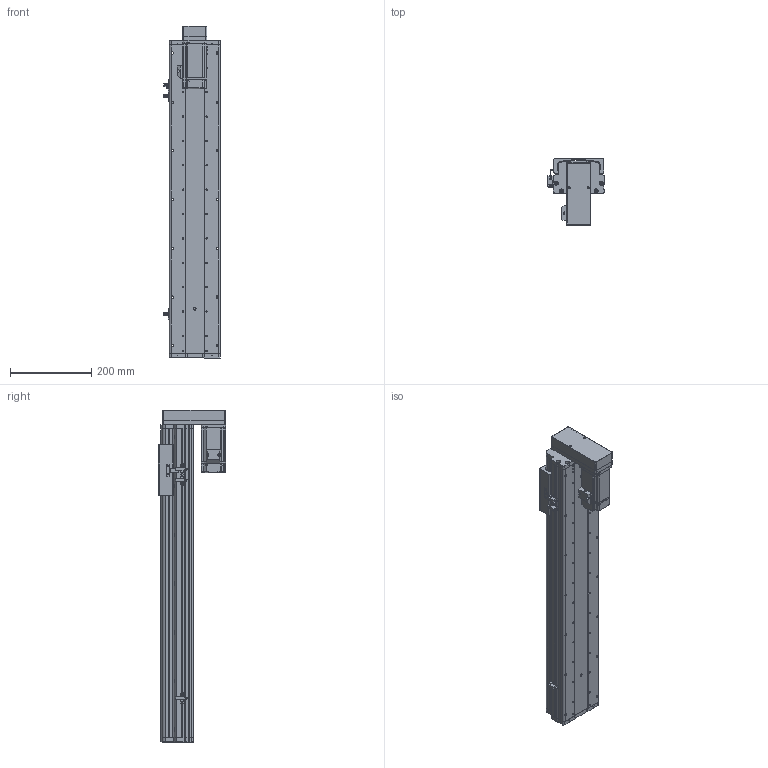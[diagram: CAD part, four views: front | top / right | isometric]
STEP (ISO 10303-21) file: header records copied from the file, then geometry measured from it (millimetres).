
FILE_DESCRIPTION (( 'STEP AP214' ), '1' );
FILE_NAME ('KSD125S-S550-MD-CM.STEP', '2017-10-21T08:07:10', ( '微软用户' ), ( '微软中国' ), 'SwSTEP 2.0', 'SolidWorks 2014', '' );
FILE_SCHEMA (( 'AUTOMOTIVE_DESIGN' ));
Length unit declared in the file: millimetre
Products named in the file (16): 拸萇儂釱滅袉菜; 拸萇儂釱滅袉菜-1; 覜茼え68遵圉猾敕; U倰嫖萇假蚾璃; U倰嫖萇EEㄜSX672; ヶ傷啣-125遵耀郪; KSD125-賑雄釱1; 125-帣傷啣1; KSD125S-S550-MD-CM; 125宽马达安装板连板上下折丝杆同步带; 125遵悵誘欶奻狟殏; HTPA30S3M150_A_H6_a佪裝蚚; HTPA30S3M150_A_H6_a萇儂蚚; KSD125S-550俴最佪裝滅鳥裔; KSD125S-550俴最佪裝菁啣; MHMD042G1CA_2_03
Assembly tree (19 placements, depth 2):
  KSD125S-S550-MD-CM
    125-帣傷啣1
    KSD125-賑雄釱1
    ヶ傷啣-125遵耀郪
    U倰嫖萇EEㄜSX672  x3
    U倰嫖萇假蚾璃  x3
    覜茼え68遵圉猾敕
    拸萇儂釱滅袉菜-1
    拸萇儂釱滅袉菜
    MHMD042G1CA_2_03
    KSD125S-550俴最佪裝菁啣
    KSD125S-550俴最佪裝滅鳥裔
    HTPA30S3M150_A_H6_a萇儂蚚
    HTPA30S3M150_A_H6_a佪裝蚚
    125遵悵誘欶奻狟殏
    125宽马达安装板连板上下折丝杆同步带
Bounding box: 138.7 x 165 x 817.5 mm (x, y, z)
Volume: 2748066 mm3; surface area: 946747.5 mm2
Topology: 18 solids, 21 shells, 2197 faces, 6369 edges, 4201 vertices
Faces by surface type: cylinder 1374, plane 682, cone 119, bspline 22
Entity records: 78665 total; most frequent: CARTESIAN_POINT 15751, DIRECTION 12087, ORIENTED_EDGE 11246, EDGE_CURVE 5701, AXIS2_PLACEMENT_3D 4671, VERTEX_POINT 3793, VECTOR 2745, LINE 2745
